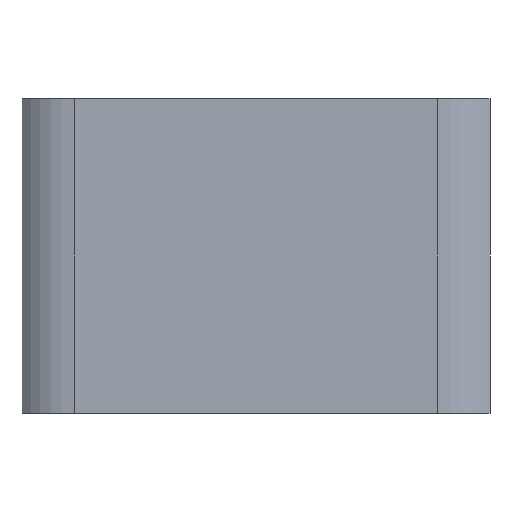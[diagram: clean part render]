
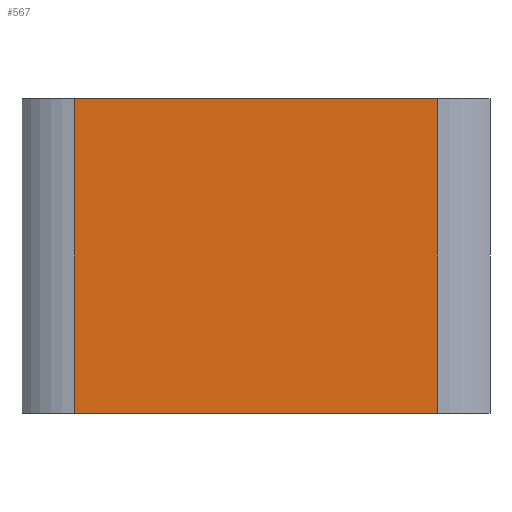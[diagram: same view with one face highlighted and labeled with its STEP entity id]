
A CAD part, left-side view. The second image highlights one B-rep face of the part: STEP entity #567.
In plain terms, the highlighted planar face has unit normal (-1, 0, 0).
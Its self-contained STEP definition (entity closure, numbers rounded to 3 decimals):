
#33 = PLANE('',#34);
#34 = AXIS2_PLACEMENT_3D('',#35,#36,#37);
#35 = CARTESIAN_POINT('',(-41.9,-42.,15.));
#36 = DIRECTION('',(0.,0.,1.));
#37 = DIRECTION('',(1.,0.,0.));
#95 = VERTEX_POINT('',#96);
#96 = CARTESIAN_POINT('',(-84.1,-29.7,15.));
#111 = CYLINDRICAL_SURFACE('',#112,12.3);
#112 = AXIS2_PLACEMENT_3D('',#113,#114,#115);
#113 = CARTESIAN_POINT('',(-71.8,-29.7,-39.));
#114 = DIRECTION('',(-0.,-0.,1.));
#115 = DIRECTION('',(-1.,-0.,-0.));
#123 = EDGE_CURVE('',#95,#124,#126,.T.);
#124 = VERTEX_POINT('',#125);
#125 = CARTESIAN_POINT('',(-84.1,32.7,15.));
#126 = SURFACE_CURVE('',#127,(#131,#138),.PCURVE_S1.);
#127 = LINE('',#128,#129);
#128 = CARTESIAN_POINT('',(-84.1,-42.,15.));
#129 = VECTOR('',#130,1.);
#130 = DIRECTION('',(-0.,1.,0.));
#131 = PCURVE('',#33,#132);
#132 = DEFINITIONAL_REPRESENTATION('',(#133),#137);
#133 = LINE('',#134,#135);
#134 = CARTESIAN_POINT('',(-42.2,0.));
#135 = VECTOR('',#136,1.);
#136 = DIRECTION('',(-0.,1.));
#137 = ( GEOMETRIC_REPRESENTATION_CONTEXT(2) 
PARAMETRIC_REPRESENTATION_CONTEXT() REPRESENTATION_CONTEXT('2D SPACE',''
  ) );
#138 = PCURVE('',#139,#144);
#139 = PLANE('',#140);
#140 = AXIS2_PLACEMENT_3D('',#141,#142,#143);
#141 = CARTESIAN_POINT('',(-84.1,-42.,-39.));
#142 = DIRECTION('',(-1.,-0.,0.));
#143 = DIRECTION('',(0.,0.,-1.));
#144 = DEFINITIONAL_REPRESENTATION('',(#145),#149);
#145 = LINE('',#146,#147);
#146 = CARTESIAN_POINT('',(-54.,-0.));
#147 = VECTOR('',#148,1.);
#148 = DIRECTION('',(-0.,-1.));
#149 = ( GEOMETRIC_REPRESENTATION_CONTEXT(2) 
PARAMETRIC_REPRESENTATION_CONTEXT() REPRESENTATION_CONTEXT('2D SPACE',''
  ) );
#172 = CYLINDRICAL_SURFACE('',#173,12.3);
#173 = AXIS2_PLACEMENT_3D('',#174,#175,#176);
#174 = CARTESIAN_POINT('',(-71.8,32.7,-39.));
#175 = DIRECTION('',(-0.,-0.,1.));
#176 = DIRECTION('',(-1.,-0.,-0.));
#319 = PLANE('',#320);
#320 = AXIS2_PLACEMENT_3D('',#321,#322,#323);
#321 = CARTESIAN_POINT('',(-41.9,-42.,-39.));
#322 = DIRECTION('',(0.,0.,1.));
#323 = DIRECTION('',(1.,0.,0.));
#517 = EDGE_CURVE('',#518,#124,#520,.T.);
#518 = VERTEX_POINT('',#519);
#519 = CARTESIAN_POINT('',(-84.1,32.7,-39.));
#520 = SURFACE_CURVE('',#521,(#525,#532),.PCURVE_S1.);
#521 = LINE('',#522,#523);
#522 = CARTESIAN_POINT('',(-84.1,32.7,-39.));
#523 = VECTOR('',#524,1.);
#524 = DIRECTION('',(-0.,-0.,1.));
#525 = PCURVE('',#172,#526);
#526 = DEFINITIONAL_REPRESENTATION('',(#527),#531);
#527 = LINE('',#528,#529);
#528 = CARTESIAN_POINT('',(-0.,0.));
#529 = VECTOR('',#530,1.);
#530 = DIRECTION('',(-0.,1.));
#531 = ( GEOMETRIC_REPRESENTATION_CONTEXT(2) 
PARAMETRIC_REPRESENTATION_CONTEXT() REPRESENTATION_CONTEXT('2D SPACE',''
  ) );
#532 = PCURVE('',#139,#533);
#533 = DEFINITIONAL_REPRESENTATION('',(#534),#538);
#534 = LINE('',#535,#536);
#535 = CARTESIAN_POINT('',(-0.,-74.7));
#536 = VECTOR('',#537,1.);
#537 = DIRECTION('',(-1.,-0.));
#538 = ( GEOMETRIC_REPRESENTATION_CONTEXT(2) 
PARAMETRIC_REPRESENTATION_CONTEXT() REPRESENTATION_CONTEXT('2D SPACE',''
  ) );
#567 = ADVANCED_FACE('',(#568),#139,.T.);
#568 = FACE_BOUND('',#569,.F.);
#569 = EDGE_LOOP('',(#570,#571,#594,#615));
#570 = ORIENTED_EDGE('',*,*,#123,.F.);
#571 = ORIENTED_EDGE('',*,*,#572,.F.);
#572 = EDGE_CURVE('',#573,#95,#575,.T.);
#573 = VERTEX_POINT('',#574);
#574 = CARTESIAN_POINT('',(-84.1,-29.7,-39.));
#575 = SURFACE_CURVE('',#576,(#580,#587),.PCURVE_S1.);
#576 = LINE('',#577,#578);
#577 = CARTESIAN_POINT('',(-84.1,-29.7,-39.));
#578 = VECTOR('',#579,1.);
#579 = DIRECTION('',(-0.,-0.,1.));
#580 = PCURVE('',#139,#581);
#581 = DEFINITIONAL_REPRESENTATION('',(#582),#586);
#582 = LINE('',#583,#584);
#583 = CARTESIAN_POINT('',(-0.,-12.3));
#584 = VECTOR('',#585,1.);
#585 = DIRECTION('',(-1.,-0.));
#586 = ( GEOMETRIC_REPRESENTATION_CONTEXT(2) 
PARAMETRIC_REPRESENTATION_CONTEXT() REPRESENTATION_CONTEXT('2D SPACE',''
  ) );
#587 = PCURVE('',#111,#588);
#588 = DEFINITIONAL_REPRESENTATION('',(#589),#593);
#589 = LINE('',#590,#591);
#590 = CARTESIAN_POINT('',(0.,0.));
#591 = VECTOR('',#592,1.);
#592 = DIRECTION('',(0.,1.));
#593 = ( GEOMETRIC_REPRESENTATION_CONTEXT(2) 
PARAMETRIC_REPRESENTATION_CONTEXT() REPRESENTATION_CONTEXT('2D SPACE',''
  ) );
#594 = ORIENTED_EDGE('',*,*,#595,.T.);
#595 = EDGE_CURVE('',#573,#518,#596,.T.);
#596 = SURFACE_CURVE('',#597,(#601,#608),.PCURVE_S1.);
#597 = LINE('',#598,#599);
#598 = CARTESIAN_POINT('',(-84.1,-42.,-39.));
#599 = VECTOR('',#600,1.);
#600 = DIRECTION('',(-0.,1.,0.));
#601 = PCURVE('',#139,#602);
#602 = DEFINITIONAL_REPRESENTATION('',(#603),#607);
#603 = LINE('',#604,#605);
#604 = CARTESIAN_POINT('',(-0.,-0.));
#605 = VECTOR('',#606,1.);
#606 = DIRECTION('',(-0.,-1.));
#607 = ( GEOMETRIC_REPRESENTATION_CONTEXT(2) 
PARAMETRIC_REPRESENTATION_CONTEXT() REPRESENTATION_CONTEXT('2D SPACE',''
  ) );
#608 = PCURVE('',#319,#609);
#609 = DEFINITIONAL_REPRESENTATION('',(#610),#614);
#610 = LINE('',#611,#612);
#611 = CARTESIAN_POINT('',(-42.2,0.));
#612 = VECTOR('',#613,1.);
#613 = DIRECTION('',(-0.,1.));
#614 = ( GEOMETRIC_REPRESENTATION_CONTEXT(2) 
PARAMETRIC_REPRESENTATION_CONTEXT() REPRESENTATION_CONTEXT('2D SPACE',''
  ) );
#615 = ORIENTED_EDGE('',*,*,#517,.T.);
